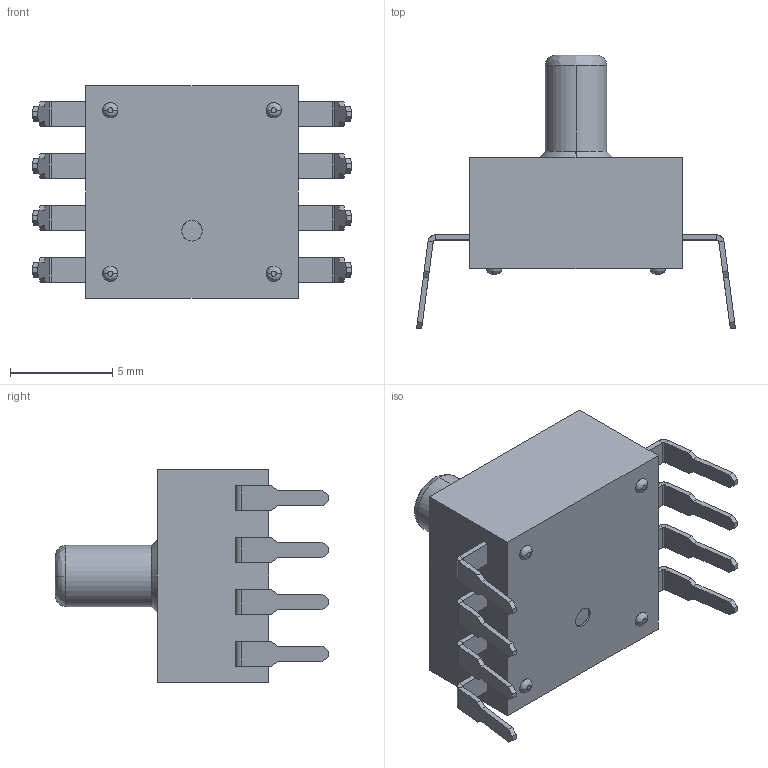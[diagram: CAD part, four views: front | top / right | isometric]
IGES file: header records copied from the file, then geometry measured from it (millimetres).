
Global section: preprocessor: SolidWorks 2010; organization: (C)Panasonic Corporation 2012; date: 120619.113748; units: millimetre
Bounding box: 15.59 x 13.38 x 10.4 mm (x, y, z)
Surface area: 633.3 mm2 (no closed solid volume)
Topology: 0 solids, 0 shells, 193 faces, 1196 edges, 1196 vertices
Faces by surface type: bspline 167, revolution 26
